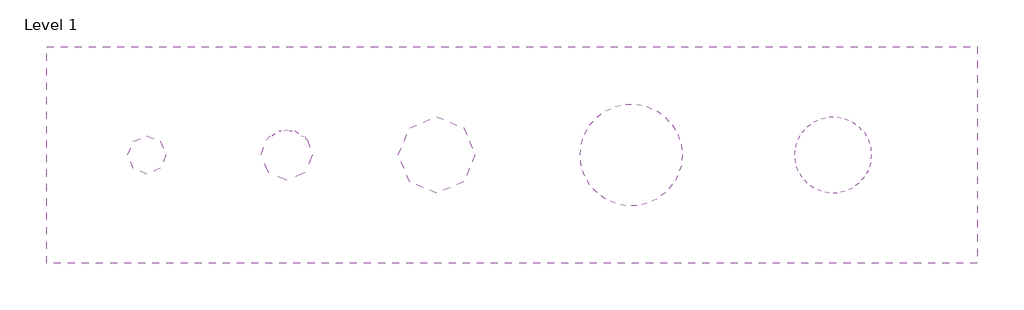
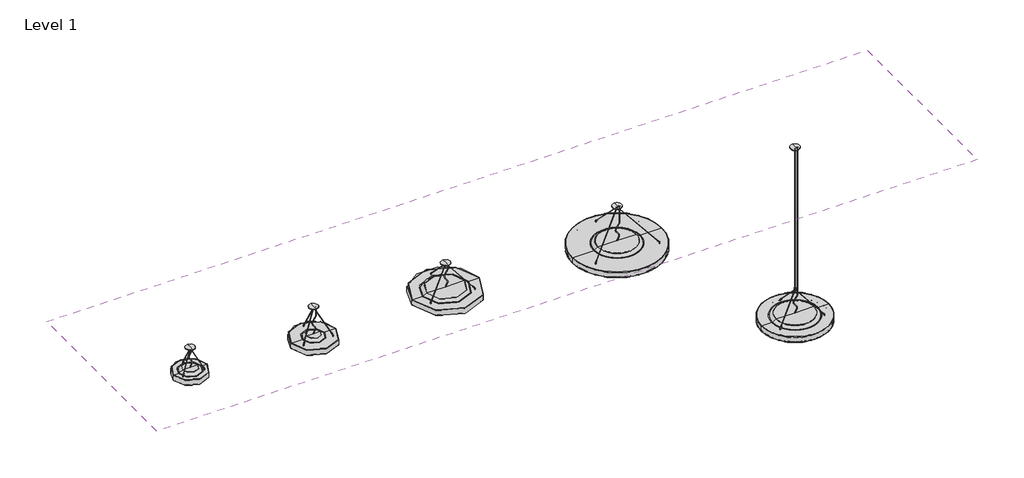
# One storey: 5 light fixtures, 1 covering.
"""IFC4 building model written with IfcOpenShell, lengths in millimetres."""

from ifc_helpers import new_model, si_unit, frame, origin, place, context, project, spatial, polyline, outline, extrude, transform, mapped, element, save
from components import p5618_7612951a, p5618_bb80e7ce, p5624_6c2476ff, p5624_873c4495, p5636_938da879, p5636_0e7e288c, p5636_05035a62, p5636_472eec4d, p5648_e3c1b2aa, p5648_7bcdc195

model = new_model("IFC4")

# Units and contexts
model_context = context("Model", 3, world=origin())
ifc_project = project(units=[si_unit("LENGTHUNIT", "METRE", prefix="MILLI")], contexts=[model_context])

# Site, building, storey
site = spatial("IfcSite", under=ifc_project)
building = spatial("IfcBuilding", under=site)
storey = spatial("IfcBuildingStorey", under=building, Name="Level 1", Elevation=0.0)

# Covering
placement = place(None, origin())
element("IfcCovering", 1, ObjectType="600 x 1200mm grid", at=placement, inside=storey, context=model_context, shape_type="SweptSolid", body=[
    extrude(outline(polyline([(43266.715737, 9847.1705086), (43266.715737, 7256.3705086), (32141.515737, 7256.3705086), (32141.515737, 9847.1705086), (43266.715737, 9847.1705086)])), frame((0.0, 0.0, 11835.209375), z_axis=(0.0, 0.0, 1.0), x_axis=(1.0, 0.0, 0.0)), (0.0, 0.0, 1.0), 51.990625),
])

# Light fixtures
p5618_shape = p5618_7612951a(model_context)
p5618_2_shape = p5618_bb80e7ce(model_context)
element("IfcLightFixture", 2, ObjectType="Impact_Arch_Ltg-waf.r.3 : P5618", at=placement, inside=storey, context=model_context, shape_type="MappedRepresentation", body=[
    mapped(p5618_shape, transform((33340.4874104, 8551.7705086, 11835.209375), x_axis=(1.0, 0.0, 0.0), y_axis=(0.0, -1.0, 0.0), z_axis=(0.0, 0.0, -1.0))),
    mapped(p5618_2_shape, transform((33340.4874104, 8551.7705086, 11835.209375), x_axis=(1.0, 0.0, 0.0), y_axis=(0.0, -1.0, 0.0), z_axis=(0.0, 0.0, -1.0))),
])
p5624_shape = p5624_6c2476ff(model_context)
p5624_2_shape = p5624_873c4495(model_context)
element("IfcLightFixture", 3, ObjectType="Impact_Arch_Ltg-waf.r.3 : P5624", at=placement, inside=storey, context=model_context, shape_type="MappedRepresentation", body=[
    mapped(p5624_shape, transform((35012.3624336, 8551.7705086, 11835.209375), x_axis=(1.0, 0.0, 0.0), y_axis=(0.0, -1.0, 0.0), z_axis=(0.0, 0.0, -1.0))),
    mapped(p5624_2_shape, transform((35012.3624336, 8551.7705086, 11835.209375), x_axis=(1.0, 0.0, 0.0), y_axis=(0.0, -1.0, 0.0), z_axis=(0.0, 0.0, -1.0))),
])
p5636_shape = p5636_938da879(model_context)
p5636_2_shape = p5636_0e7e288c(model_context)
element("IfcLightFixture", 4, ObjectType="Impact_Arch_Ltg-waf.r.3 : P5636", at=placement, inside=storey, context=model_context, shape_type="MappedRepresentation", body=[
    mapped(p5636_shape, transform((36804.2158318, 8551.7705086, 11835.209375), x_axis=(1.0, 0.0, 0.0), y_axis=(0.0, -1.0, 0.0), z_axis=(0.0, 0.0, -1.0))),
    mapped(p5636_2_shape, transform((36804.2158318, 8551.7705086, 11835.209375), x_axis=(1.0, 0.0, 0.0), y_axis=(0.0, -1.0, 0.0), z_axis=(0.0, 0.0, -1.0))),
])
p5636_3_shape = p5636_05035a62(model_context)
p5636_4_shape = p5636_472eec4d(model_context)
element("IfcLightFixture", 5, ObjectType="Impact_Arch_Ltg-waf.r.3 : P5636", at=placement, inside=storey, context=model_context, shape_type="MappedRepresentation", body=[
    mapped(p5636_3_shape, transform((41541.4004934, 8551.7705086, 11835.209375), x_axis=(1.0, 0.0, 0.0), y_axis=(0.0, -1.0, 0.0), z_axis=(0.0, 0.0, -1.0))),
    mapped(p5636_4_shape, transform((41541.4004934, 8551.7705086, 11835.209375), x_axis=(1.0, 0.0, 0.0), y_axis=(0.0, -1.0, 0.0), z_axis=(0.0, 0.0, -1.0))),
])
p5648_shape = p5648_e3c1b2aa(model_context)
p5648_2_shape = p5648_7bcdc195(model_context)
element("IfcLightFixture", 6, ObjectType="Impact_Arch_Ltg-waf.r.3 : P5648", at=placement, inside=storey, context=model_context, shape_type="MappedRepresentation", body=[
    mapped(p5648_shape, transform((39128.3412078, 8551.7705086, 11835.209375), x_axis=(1.0, 0.0, 0.0), y_axis=(0.0, -1.0, 0.0), z_axis=(0.0, 0.0, -1.0))),
    mapped(p5648_2_shape, transform((39128.3412078, 8551.7705086, 11835.209375), x_axis=(1.0, 0.0, 0.0), y_axis=(0.0, -1.0, 0.0), z_axis=(0.0, 0.0, -1.0))),
])

save(model, "model.ifc")
